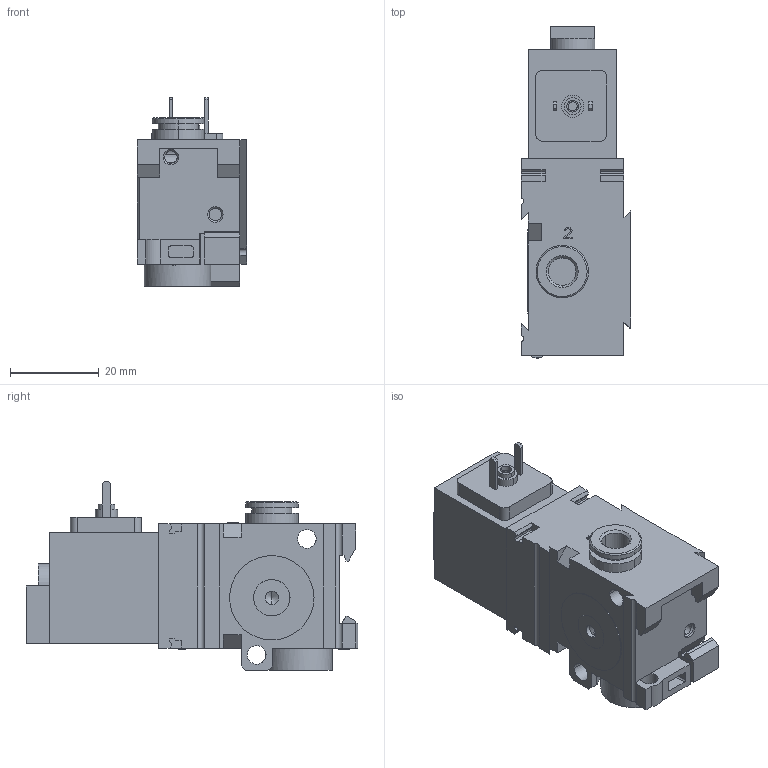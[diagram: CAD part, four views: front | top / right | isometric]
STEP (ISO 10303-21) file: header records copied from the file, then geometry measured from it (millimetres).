
FILE_DESCRIPTION((''),'2;1');
FILE_NAME('5792205220','2018-08-21T',('hug2hc'),(''),'CREO PARAMETRIC BY PTC INC, 2016260','CREO PARAMETRIC BY PTC INC, 2016260','');
FILE_SCHEMA(('CONFIG_CONTROL_DESIGN'));
Length unit declared in the file: millimetre
Products named in the file (1): 5792205220
Bounding box: 24.6 x 74.69 x 42.5 mm (x, y, z)
Volume: 39040.8 mm3; surface area: 12946.5 mm2
Topology: 1 solids, 2 shells, 392 faces, 1054 edges, 693 vertices
Faces by surface type: plane 281, cylinder 95, cone 16
Entity records: 12400 total; most frequent: CARTESIAN_POINT 2330, ORIENTED_EDGE 2100, DIRECTION 2032, EDGE_CURVE 1050, VECTOR 822, LINE 822, VERTEX_POINT 693, AXIS2_PLACEMENT_3D 605
